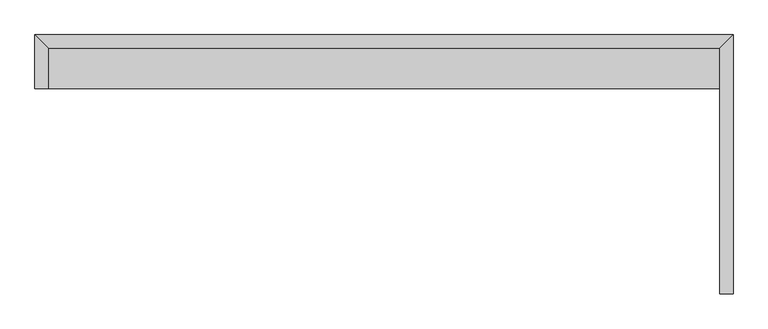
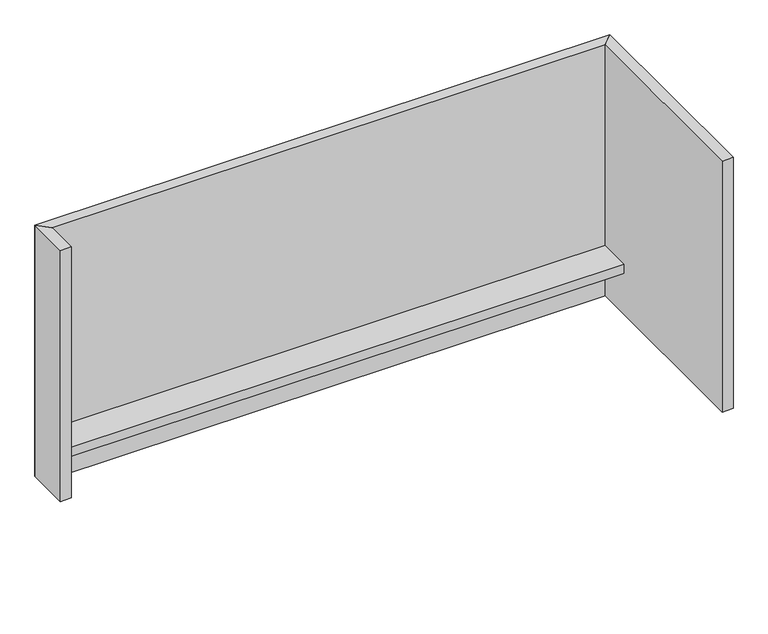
"""IFC4 building model written with IfcOpenShell, lengths in millimetres: proxy geometry, AERO^OFFICE 5_36x78 WORKSURFACE-PARTS SOLID."""

from ifc_helpers import new_model, si_unit, frame, origin, place, context, project, spatial, polyline, outline, extrude, source, transform, mapped, element, save


def generic_models_074bca6a(model_context):
    return source(origin(), model_context, "Body", "SweptSolid", [
        extrude(outline(polyline([(-1943.1, -114.3), (-1981.2, -114.3), (-1981.2, 38.1), (-1943.1, 0.0), (-1943.1, -114.3)])), frame((0.0, 0.0, -914.4), z_axis=(0.0, 0.0, 1.0), x_axis=(1.0, 0.0, 0.0)), (0.0, 0.0, 1.0), 914.4),
        extrude(outline(polyline([(-38.1, -698.5), (-38.1, 0.0), (0.0, 38.1), (0.0, -698.5), (-38.1, -698.5)])), frame((0.0, 0.0, -914.4), z_axis=(0.0, 0.0, 1.0), x_axis=(1.0, 0.0, 0.0)), (0.0, 0.0, 1.0), 914.4),
        extrude(outline(polyline([(-38.1, 0.0), (-1943.1, 0.0), (-1981.2, 38.1), (0.0, 38.1), (-38.1, 0.0)])), frame((0.0, 0.0, -914.4), z_axis=(0.0, 0.0, 1.0), x_axis=(1.0, 0.0, 0.0)), (0.0, 0.0, 1.0), 914.4),
        extrude(outline(polyline([(-38.1, 0.0), (-38.1, -114.3), (-1943.1, -114.3), (-1943.1, 0.0), (-38.1, 0.0)])), frame((0.0, 0.0, -762.0), z_axis=(0.0, 0.0, 1.0), x_axis=(1.0, 0.0, 0.0)), (0.0, 0.0, 1.0), 31.75),
    ])


if __name__ == "__main__":
    model = new_model("IFC4")
    model_context = context("Model", 3, world=origin())
    ifc_project = project(units=[si_unit("LENGTHUNIT", "METRE", prefix="MILLI")], contexts=[model_context])
    site = spatial("IfcSite", under=ifc_project)
    building = spatial("IfcBuilding", under=site)
    placement = place(None, origin())
    generic_models_shape = generic_models_074bca6a(model_context)
    element("IfcBuildingElementProxy", 1, Name="AERO^OFFICE 5_36x78 WORKSURFACE-PARTS SOLID", ObjectType="AERO^OFFICE 5_36x78 WORKSURFACE-PARTS SOLID", at=placement, inside=building, context=model_context, shape_type="MappedRepresentation", body=[
        mapped(generic_models_shape, transform((0.0, 0.0, 0.0), x_axis=(1.0, 0.0, 0.0), y_axis=(0.0, 1.0, 0.0), z_axis=(0.0, 0.0, 1.0))),
    ])
    save(model, "model.ifc")
